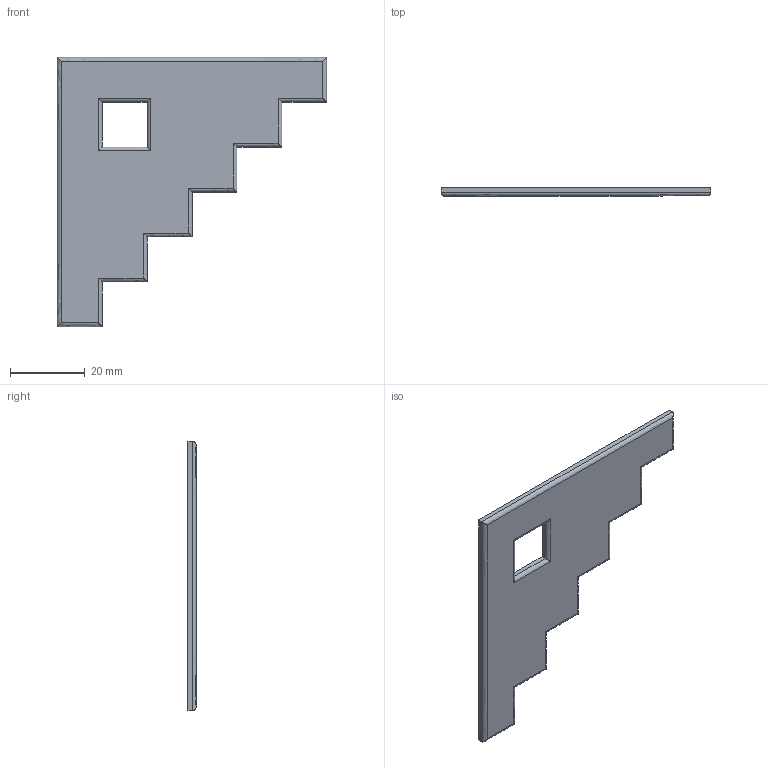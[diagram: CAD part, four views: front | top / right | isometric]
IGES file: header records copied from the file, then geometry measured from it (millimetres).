
Start section: C
Global section: file name: 8035.igs; native system: By Siemens PLM Incorporated; preprocessor: XPlus GENERIC/IGES 16.0.42; author: Author; organization: Title; date: 20231128.133729; units: millimetre
Bounding box: 72 x 2.2 x 72 mm (x, y, z)
Surface area: 6355 mm2 (no closed solid volume)
Topology: 0 solids, 0 shells, 38 faces, 180 edges, 180 vertices
Faces by surface type: bspline 38
